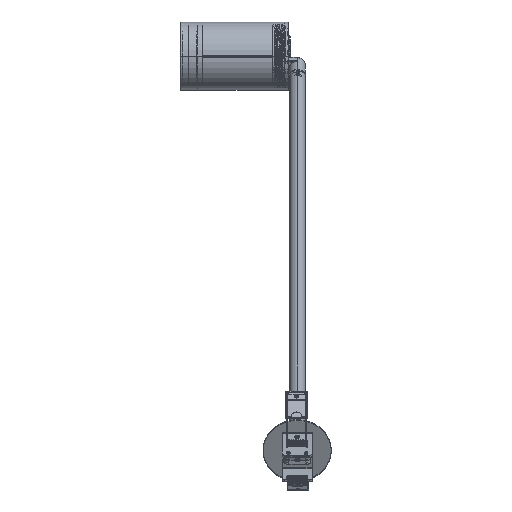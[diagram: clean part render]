
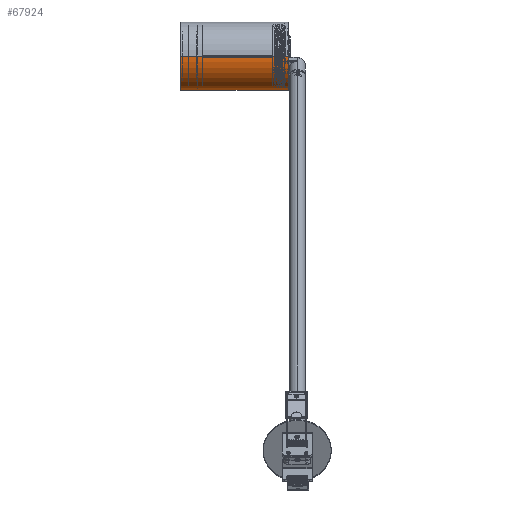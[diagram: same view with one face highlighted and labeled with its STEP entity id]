
A CAD part, left-side view. The second image highlights one B-rep face of the part: STEP entity #67924.
In plain terms, the highlighted cylindrical face has radius 28.5 mm (diameter 57 mm), a partial arc.
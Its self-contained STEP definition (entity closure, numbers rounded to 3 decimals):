
#66021=CARTESIAN_POINT('',(0.,-45.,0.));
#66022=DIRECTION('',(0.,1.,0.));
#66023=DIRECTION('',(1.,0.,0.));
#66024=AXIS2_PLACEMENT_3D('',#66021,#66022,#66023);
#66036=DIRECTION('',(0.,1.,0.));
#66037=VECTOR('',#66036,90.);
#66038=CARTESIAN_POINT('',(28.5,-45.,0.));
#66039=LINE('',#66038,#66037);
#66040=DIRECTION('',(0.,1.,0.));
#66041=VECTOR('',#66040,90.);
#66042=CARTESIAN_POINT('',(-28.5,-45.,0.));
#66043=LINE('',#66042,#66041);
#66044=CARTESIAN_POINT('',(0.,45.,0.));
#66045=DIRECTION('',(0.,1.,0.));
#66046=DIRECTION('',(1.,0.,0.));
#66047=AXIS2_PLACEMENT_3D('',#66044,#66045,#66046);
#67660=CARTESIAN_POINT('',(28.5,-45.,0.));
#67661=CARTESIAN_POINT('',(-28.5,-45.,0.));
#67662=VERTEX_POINT('',#67660);
#67663=VERTEX_POINT('',#67661);
#67664=CARTESIAN_POINT('',(28.5,45.,0.));
#67665=CARTESIAN_POINT('',(-28.5,45.,0.));
#67666=VERTEX_POINT('',#67664);
#67667=VERTEX_POINT('',#67665);
#67910=CARTESIAN_POINT('',(0.,-45.,0.));
#67911=DIRECTION('',(0.,1.,0.));
#67912=DIRECTION('',(1.,0.,0.));
#67913=AXIS2_PLACEMENT_3D('',#67910,#67911,#67912);
#67914=CYLINDRICAL_SURFACE('',#67913,28.5);
#67915=ORIENTED_EDGE('',*,*,#67897,.F.);
#67917=ORIENTED_EDGE('',*,*,#67916,.T.);
#67919=ORIENTED_EDGE('',*,*,#67918,.T.);
#67921=ORIENTED_EDGE('',*,*,#67920,.F.);
#67922=EDGE_LOOP('',(#67915,#67917,#67919,#67921));
#67923=FACE_OUTER_BOUND('',#67922,.F.);
#67924=ADVANCED_FACE('',(#67923),#67914,.T.);
#66025=CIRCLE('',#66024,28.5);
#66048=CIRCLE('',#66047,28.5);
#67897=EDGE_CURVE('',#67662,#67663,#66025,.T.);
#67916=EDGE_CURVE('',#67662,#67666,#66039,.T.);
#67918=EDGE_CURVE('',#67666,#67667,#66048,.T.);
#67920=EDGE_CURVE('',#67663,#67667,#66043,.T.);
